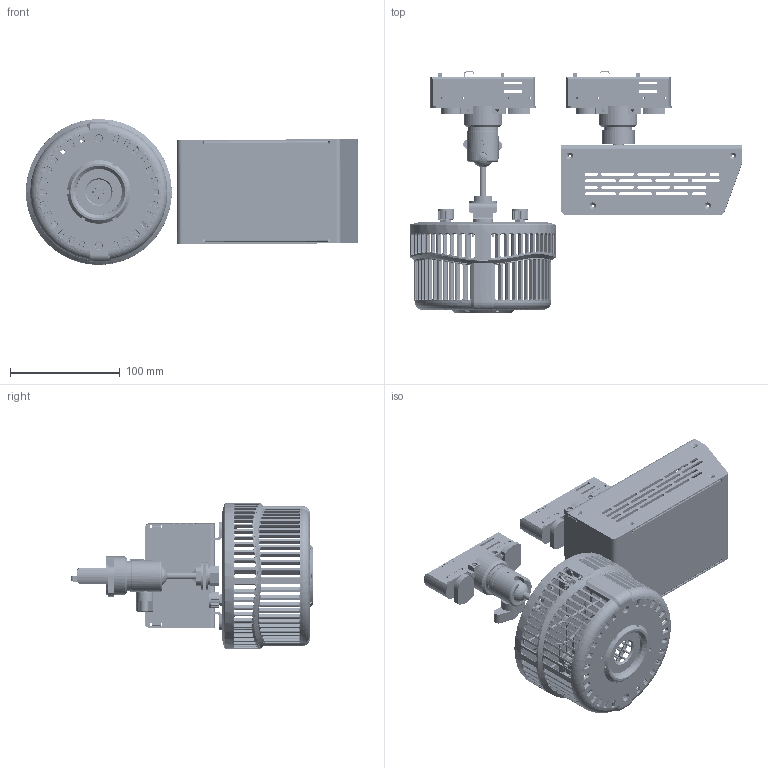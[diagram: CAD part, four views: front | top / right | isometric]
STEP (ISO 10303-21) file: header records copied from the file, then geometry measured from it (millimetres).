
FILE_DESCRIPTION (( 'STEP AP214' ), '1' );
FILE_NAME ('W500X-TEX-PS.STEP', '2024-01-31T17:42:15', ( '' ), ( '' ), 'SwSTEP 2.0', 'SolidWorks 2022', '' );
FILE_SCHEMA (( 'AUTOMOTIVE_DESIGN' ));
Length unit declared in the file: millimetre
Products named in the file (26): 5020897-2010216520_ _Helical Spring Washer Customized___; 5120519-XXX_A3_Assembly BOM, Kessil W500 Power Box_TON(US)-PS; 5120529-XXX_A1_Assembly BOM, W500 Light Engine_Finish; 5022770-XXX_A1_RETAINING COLLAR M10P1.0 FOR ONETRACK POWER BOX OD30x29.8mm___; 5022430-XXX_A1_Ball Joint Part C (For TDE), L=18.9mm___; 5010177-XXX_A2_Assembly BOM, Kessil W500_N-[TG]; 5022708-XXX_A2_Ball Joint Axis, L=65.8mm___; 5120522-XXX_A4_Assembly BOM, W360&W500 Light Mounting Type_TG; 5022399_A1_Fix Ball Joint Part for EUTRAC, D=28mm___; 5120540-XXX_A1_Rear Panel, OD=133, T=13.65mm, W-Series_5120531-001 W500; 5022427-XXX_A4_250W Power Box FRAME (TG&TEX&CLP TYPE), 165x95x64mm___; 5021416_A1_Hex Nut, M10xP1.5, T8 SUS___; 5020757-002_A2_VR Washer, Kessil A360 Aquarium Light___; 5021926-XXX_A2_KNOB, 18T, OD=14.9, ID=6, L=10MM_C1; 62282-5014005_ _Standard Types of Metric Set Screws, M4xL5, Black___; 5120530-XXX_A1_Assembly BOM, W500 Reflector Type_No Reflector; 5120539-XXX_A1_Housing, OD=133, ID=121, T=78.1mm, For Reflector, Without Logo___; 5022424-XXX_A2_250W Power Box Cover (TG&TEX-PS&CLP&TJ TYPE), 165x92x62.5(H)mm___; 5020757-001_A1_VR Nut, Kessil A360 Aquarium Light___; 5022189_A1_Plate, OD=48, ID=23, T=2.0mm___; 5022014-XYZ_A2_EUTRAC Multi Adapter_Finissh_2(No Locked); 5022431-XXX_A1_Ball Joint Part A, L=23.7mm___; 5022405-XXX_A1_Wing Knob Screws, M6xL8.0mm_-001; 5022693-XXX_A1_Bracket, 98.85x25x17.5, T=2.5mm___; W500X-TEX-PS; 5020893-2010525020_ _Flat Washer, M10, ID10.5 OD25.0, T2 SUS 304___
Assembly tree (30 placements, depth 4):
  W500X-TEX-PS
    5010177-XXX_A2_Assembly BOM, Kessil W500_N-[TG]
      5120529-XXX_A1_Assembly BOM, W500 Light Engine_Finish
        5120540-XXX_A1_Rear Panel, OD=133, T=13.65mm, W-Series_5120531-001 W500
        5020757-002_A2_VR Washer, Kessil A360 Aquarium Light___  x2
        5020757-001_A1_VR Nut, Kessil A360 Aquarium Light___  x2
        5021926-XXX_A2_KNOB, 18T, OD=14.9, ID=6, L=10MM_C1  x2
      5120530-XXX_A1_Assembly BOM, W500 Reflector Type_No Reflector
        5120539-XXX_A1_Housing, OD=133, ID=121, T=78.1mm, For Reflector, Without Logo___
        5022189_A1_Plate, OD=48, ID=23, T=2.0mm___
      5120522-XXX_A4_Assembly BOM, W360&W500 Light Mounting Type_TG
        5022431-XXX_A1_Ball Joint Part A, L=23.7mm___
        5022430-XXX_A1_Ball Joint Part C (For TDE), L=18.9mm___
        5022708-XXX_A2_Ball Joint Axis, L=65.8mm___
        62282-5014005_ _Standard Types of Metric Set Screws, M4xL5, Black___
        5022405-XXX_A1_Wing Knob Screws, M6xL8.0mm_-001
        5022693-XXX_A1_Bracket, 98.85x25x17.5, T=2.5mm___
        5022014-XYZ_A2_EUTRAC Multi Adapter_Finissh_2(No Locked)
        5022399_A1_Fix Ball Joint Part for EUTRAC, D=28mm___
        5020893-2010525020_ _Flat Washer, M10, ID10.5 OD25.0, T2 SUS 304___  x2
        5020897-2010216520_ _Helical Spring Washer Customized___
        5021416_A1_Hex Nut, M10xP1.5, T8 SUS___
    5120519-XXX_A3_Assembly BOM, Kessil W500 Power Box_TON(US)-PS
      5022427-XXX_A4_250W Power Box FRAME (TG&TEX&CLP TYPE), 165x95x64mm___
      5022014-XYZ_A2_EUTRAC Multi Adapter_Finissh_2(No Locked)
      5022770-XXX_A1_RETAINING COLLAR M10P1.0 FOR ONETRACK POWER BOX OD30x29.8mm___
      5022424-XXX_A2_250W Power Box Cover (TG&TEX-PS&CLP&TJ TYPE), 165x92x62.5(H)mm___
Bounding box: 303.04 x 221.38 x 133 mm (x, y, z)
Volume: 355742.1 mm3; surface area: 340295.7 mm2
Topology: 35 solids, 35 shells, 6190 faces, 17037 edges, 10862 vertices
Faces by surface type: plane 2482, cylinder 2097, bspline 853, cone 421, torus 327, sphere 10
Entity records: 244734 total; most frequent: CARTESIAN_POINT 108051, ORIENTED_EDGE 29656, DIRECTION 24675, EDGE_CURVE 14828, VERTEX_POINT 9405, AXIS2_PLACEMENT_3D 9006, LINE 6663, VECTOR 6663
